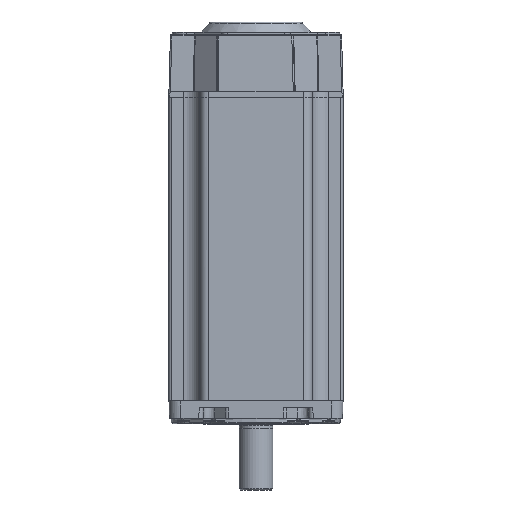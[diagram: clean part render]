
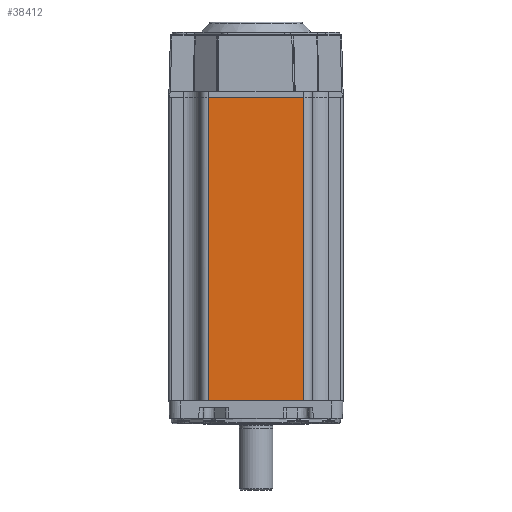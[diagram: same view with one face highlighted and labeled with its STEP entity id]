
A CAD part, front view. The second image highlights one B-rep face of the part: STEP entity #38412.
In plain terms, the highlighted planar face has unit normal (0, -1, 0).
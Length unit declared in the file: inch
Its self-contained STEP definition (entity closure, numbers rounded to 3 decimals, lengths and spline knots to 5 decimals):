
#463=CARTESIAN_POINT('',(1.058,-1.925,7.123));
#464=VERTEX_POINT('',#463);
#527=CARTESIAN_POINT('',(-1.058,-1.925,7.123));
#528=VERTEX_POINT('',#527);
#535=CARTESIAN_POINT('',(1.058,-1.925,7.123));
#536=DIRECTION('',(-1.0,0.0,0.0));
#537=VECTOR('',#536,2.116);
#538=LINE('',#535,#537);
#539=EDGE_CURVE('',#464,#528,#538,.T.);
#36597=CARTESIAN_POINT('',(1.058,-1.925,0.423));
#36598=VERTEX_POINT('',#36597);
#36599=CARTESIAN_POINT('',(1.058,-1.925,7.123));
#36600=DIRECTION('',(0.0,0.0,-1.0));
#36601=VECTOR('',#36600,6.7);
#36602=LINE('',#36599,#36601);
#36603=EDGE_CURVE('',#464,#36598,#36602,.T.);
#36730=CARTESIAN_POINT('',(-1.058,-1.925,0.423));
#36731=VERTEX_POINT('',#36730);
#36741=CARTESIAN_POINT('',(-1.058,-1.925,0.423));
#36742=DIRECTION('',(1.0,0.0,0.0));
#36743=VECTOR('',#36742,2.116);
#36744=LINE('',#36741,#36743);
#36745=EDGE_CURVE('',#36731,#36598,#36744,.T.);
#36764=CARTESIAN_POINT('',(-1.058,-1.925,0.423));
#36765=DIRECTION('',(0.0,0.0,1.0));
#36766=VECTOR('',#36765,6.7);
#36767=LINE('',#36764,#36766);
#36768=EDGE_CURVE('',#36731,#528,#36767,.T.);
#38401=CARTESIAN_POINT('',(1.245,-1.925,0.423));
#38402=DIRECTION('',(0.0,-1.0,0.0));
#38403=DIRECTION('',(0.0,0.0,-1.0));
#38404=AXIS2_PLACEMENT_3D('',#38401,#38402,#38403);
#38405=PLANE('',#38404);
#38406=ORIENTED_EDGE('',*,*,#539,.T.);
#38407=ORIENTED_EDGE('',*,*,#36768,.F.);
#38408=ORIENTED_EDGE('',*,*,#36745,.T.);
#38409=ORIENTED_EDGE('',*,*,#36603,.F.);
#38410=EDGE_LOOP('',(#38406,#38407,#38408,#38409));
#38411=FACE_OUTER_BOUND('',#38410,.T.);
#38412=ADVANCED_FACE('',(#38411),#38405,.T.);
